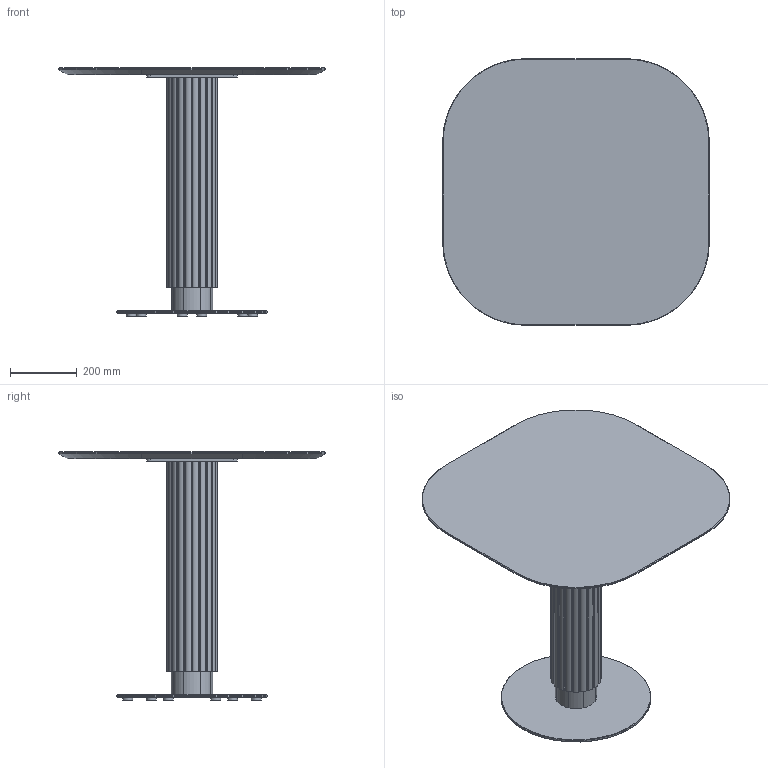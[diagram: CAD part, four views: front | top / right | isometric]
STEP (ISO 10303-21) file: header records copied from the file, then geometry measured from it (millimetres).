
FILE_DESCRIPTION( ('This file contains a STEP AP42 implementation' ,'as created by ZW3D STEP Interface translator.') ,'2;1' );
FILE_NAME( 'Godron - B_Rond - F2 - M5 - 800 x 800 x 750.stp' ,'24 912.12 7 3', (''), ('ZWCAD Software Co.'), 'Version 1.0', 'ZW3D to STEP translator', '' );
FILE_SCHEMA(('AUTOMOTIVE_DESIGN { 1 0 10303 214 1 1 1 1 }'));
Length unit declared in the file: millimetre
Products named in the file (15): 0; PIED BISTROT PARAMETRIQUE_; SOCLE ACIER C Ø450 V.02_; SCL-D450-02_; PLA-R30A-01_; PLA-R30A-01; CROIX ACIER 370 V.02_; CRX-X370-02_; COLONNE ACIER Ø48.5 V.02_; TUB-D048-02_; PLA-R48A-01_; Colonne GODRON H700_; WUERTH 0276063020 Euro-screw 6.3x2 Verzinkt_; PLATEAU BISTROT PARAMETRIQUE_; insert_m6_13_
Assembly tree (25 placements, depth 3):
  0
  PIED BISTROT PARAMETRIQUE_
    SOCLE ACIER C Ø450 V.02_
      SCL-D450-02_
      PLA-R30A-01_
      PLA-R30A-01  x5
    CROIX ACIER 370 V.02_
      CRX-X370-02_
    COLONNE ACIER Ø48.5 V.02_
      TUB-D048-02_
      PLA-R48A-01_  x2
    Colonne GODRON H700_
    WUERTH 0276063020 Euro-screw 6.3x2 Verzinkt_
    PLATEAU BISTROT PARAMETRIQUE_
      insert_m6_13_  x8
Bounding box: 800 x 800 x 744 mm (x, y, z)
Volume: 23534901 mm3; surface area: 2944517.1 mm2
Topology: 29 solids, 29 shells, 656 faces, 1625 edges, 1042 vertices
Faces by surface type: plane 294, cylinder 193, bspline 121, cone 47, torus 1
Full cylindrical faces by diameter (mm): 4.88 x1, 6 x8, 6.3 x1, 8 x47, 12 x2, 14 x2, 30 x6, 44.5 x3, 48.5 x1, 450 x1
Entity records: 16234 total; most frequent: CARTESIAN_POINT 4039, DIRECTION 2249, ORIENTED_EDGE 2240, EDGE_CURVE 1120, AXIS2_PLACEMENT_3D 800, VERTEX_POINT 728, VECTOR 649, LINE 649
